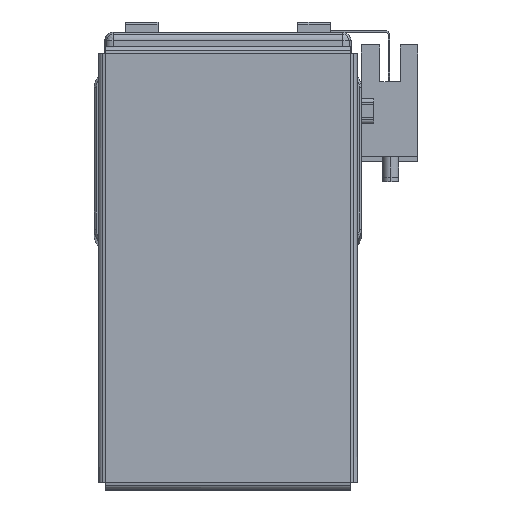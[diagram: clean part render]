
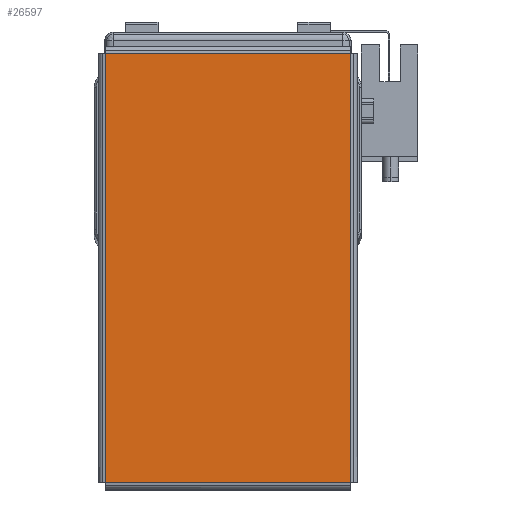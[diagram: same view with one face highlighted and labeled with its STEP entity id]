
A CAD part, top view. The second image highlights one B-rep face of the part: STEP entity #26597.
In plain terms, the highlighted planar face has unit normal (0, 0, 1) as drawn and (0, -1, 0) by its records, which use the part's own axes.
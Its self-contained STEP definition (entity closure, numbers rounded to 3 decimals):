
#3294 = ORIENTED_EDGE ( 'NONE', *, *, #13145, .T. ) ;
#3337 = ORIENTED_EDGE ( 'NONE', *, *, #13111, .T. ) ;
#3341 = ORIENTED_EDGE ( 'NONE', *, *, #13161, .T. ) ;
#3377 = ORIENTED_EDGE ( 'NONE', *, *, #13140, .T. ) ;
#6183 = FACE_OUTER_BOUND ( 'NONE', #9816, .T. ) ;
#9816 = EDGE_LOOP ( 'NONE', ( #3377, #3337, #3294, #3341 ) ) ;
#9846 = DIRECTION ( 'NONE',  ( 0., 0., -1. ) ) ;
#9850 = CARTESIAN_POINT ( 'NONE',  ( -52.263, -1., 29.893 ) ) ;
#10966 = VERTEX_POINT ( 'NONE', #18197 ) ;
#10978 = VERTEX_POINT ( 'NONE', #18095 ) ;
#10998 = VERTEX_POINT ( 'NONE', #18196 ) ;
#11026 = VERTEX_POINT ( 'NONE', #18285 ) ;
#13111 = EDGE_CURVE ( 'NONE', #10978, #10966, #16593, .T. ) ;
#13140 = EDGE_CURVE ( 'NONE', #10998, #10978, #16594, .T. ) ;
#13145 = EDGE_CURVE ( 'NONE', #10966, #11026, #16571, .T. ) ;
#13161 = EDGE_CURVE ( 'NONE', #11026, #10998, #16657, .T. ) ;
#15799 = AXIS2_PLACEMENT_3D ( 'NONE', #24981, #24952, #25022 ) ;
#16552 = VECTOR ( 'NONE', #9846, 1000. ) ;
#16562 = VECTOR ( 'NONE', #18395, 1000. ) ;
#16571 = LINE ( 'NONE', #18354, #16582 ) ;
#16582 = VECTOR ( 'NONE', #18401, 1000. ) ;
#16593 = LINE ( 'NONE', #9850, #16552 ) ;
#16594 = LINE ( 'NONE', #18411, #16562 ) ;
#16615 = VECTOR ( 'NONE', #18491, 1000. ) ;
#16657 = LINE ( 'NONE', #18489, #16615 ) ;
#18095 = CARTESIAN_POINT ( 'NONE',  ( -52.263, -1., 29.863 ) ) ;
#18196 = CARTESIAN_POINT ( 'NONE',  ( 52.263, -1., 29.863 ) ) ;
#18197 = CARTESIAN_POINT ( 'NONE',  ( -52.263, -1., -29.863 ) ) ;
#18285 = CARTESIAN_POINT ( 'NONE',  ( 52.263, -1., -29.863 ) ) ;
#18354 = CARTESIAN_POINT ( 'NONE',  ( -52.293, -1., -29.863 ) ) ;
#18395 = DIRECTION ( 'NONE',  ( -1., 0., 0. ) ) ;
#18401 = DIRECTION ( 'NONE',  ( 1., 0., 0. ) ) ;
#18411 = CARTESIAN_POINT ( 'NONE',  ( 52.293, -1., 29.863 ) ) ;
#18489 = CARTESIAN_POINT ( 'NONE',  ( 52.263, -1., -29.893 ) ) ;
#18491 = DIRECTION ( 'NONE',  ( 0., 0., 1. ) ) ;
#24952 = DIRECTION ( 'NONE',  ( 0., 1., 0. ) ) ;
#24981 = CARTESIAN_POINT ( 'NONE',  ( 0., -1., 0. ) ) ;
#25022 = DIRECTION ( 'NONE',  ( 0., 0., 1. ) ) ;
#25056 = PLANE ( 'NONE',  #15799 ) ;
#26597 = ADVANCED_FACE ( 'NONE', ( #6183 ), #25056, .F. ) ;
